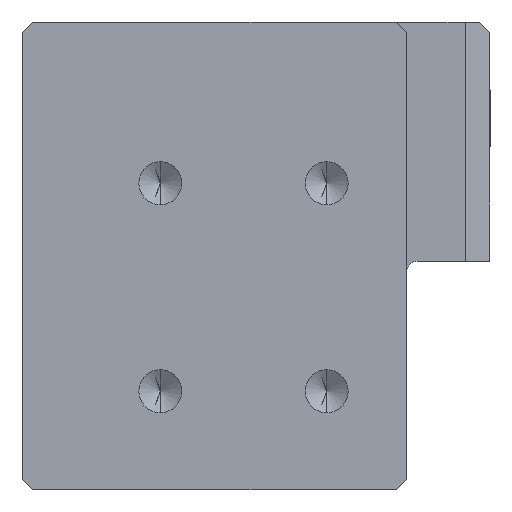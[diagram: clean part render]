
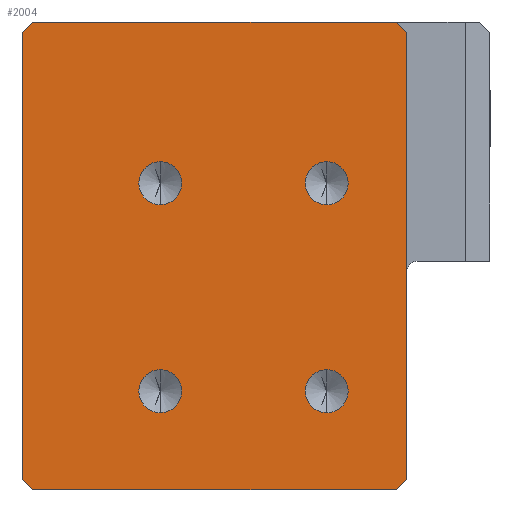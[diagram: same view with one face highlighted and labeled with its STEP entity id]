
A CAD part, front view. The second image highlights one B-rep face of the part: STEP entity #2004.
In plain terms, the highlighted planar face has unit normal (0, -1, 0).
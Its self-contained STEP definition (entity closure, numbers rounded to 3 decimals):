
#4 = LINE ( 'NONE', #946, #2233 ) ;
#7 = EDGE_CURVE ( 'NONE', #1986, #1118, #4, .T. ) ;
#8 = CARTESIAN_POINT ( 'NONE',  ( -9.2, 0., 4.933 ) ) ;
#10 = AXIS2_PLACEMENT_3D ( 'NONE', #2330, #1817, #194 ) ;
#34 = DIRECTION ( 'NONE',  ( -1., 0., 0. ) ) ;
#54 = ORIENTED_EDGE ( 'NONE', *, *, #674, .F. ) ;
#62 = CARTESIAN_POINT ( 'NONE',  ( -22.5, 0., -22.5 ) ) ;
#65 = CARTESIAN_POINT ( 'NONE',  ( 6.8, 0., 7. ) ) ;
#78 = VERTEX_POINT ( 'NONE', #2452 ) ;
#95 = ORIENTED_EDGE ( 'NONE', *, *, #2230, .T. ) ;
#119 = DIRECTION ( 'NONE',  ( 0., 0., 1. ) ) ;
#172 = DIRECTION ( 'NONE',  ( 0., -1., 0. ) ) ;
#185 = CARTESIAN_POINT ( 'NONE',  ( -22.5, 0., -21.5 ) ) ;
#194 = DIRECTION ( 'NONE',  ( 0., 0., -1. ) ) ;
#200 = AXIS2_PLACEMENT_3D ( 'NONE', #65, #1294, #1043 ) ;
#209 = VERTEX_POINT ( 'NONE', #1619 ) ;
#316 = VERTEX_POINT ( 'NONE', #8 ) ;
#319 = DIRECTION ( 'NONE',  ( 0.707, 0., 0.707 ) ) ;
#332 = VERTEX_POINT ( 'NONE', #1908 ) ;
#341 = CARTESIAN_POINT ( 'NONE',  ( -9.2, 0., -15.067 ) ) ;
#377 = EDGE_LOOP ( 'NONE', ( #2084, #54 ) ) ;
#400 = ORIENTED_EDGE ( 'NONE', *, *, #525, .F. ) ;
#415 = VECTOR ( 'NONE', #650, 1000. ) ;
#423 = CARTESIAN_POINT ( 'NONE',  ( 6.8, 0., 7. ) ) ;
#468 = CARTESIAN_POINT ( 'NONE',  ( 14.5, 0., -21.5 ) ) ;
#476 = FACE_BOUND ( 'NONE', #1480, .T. ) ;
#500 = VERTEX_POINT ( 'NONE', #1004 ) ;
#507 = CARTESIAN_POINT ( 'NONE',  ( 13.5, 0., 22.5 ) ) ;
#522 = VERTEX_POINT ( 'NONE', #185 ) ;
#523 = CIRCLE ( 'NONE', #2517, 2.067 ) ;
#525 = EDGE_CURVE ( 'NONE', #1496, #332, #1621, .T. ) ;
#558 = CARTESIAN_POINT ( 'NONE',  ( 0., 0., 0. ) ) ;
#561 = VECTOR ( 'NONE', #319, 1000. ) ;
#601 = AXIS2_PLACEMENT_3D ( 'NONE', #1591, #718, #763 ) ;
#631 = DIRECTION ( 'NONE',  ( 0., -1., 0. ) ) ;
#650 = DIRECTION ( 'NONE',  ( -0.707, 0., -0.707 ) ) ;
#656 = CARTESIAN_POINT ( 'NONE',  ( -22.5, 0., 22.5 ) ) ;
#667 = DIRECTION ( 'NONE',  ( 0., -1., 0. ) ) ;
#674 = EDGE_CURVE ( 'NONE', #500, #1679, #2195, .T. ) ;
#675 = CIRCLE ( 'NONE', #10, 2.067 ) ;
#682 = LINE ( 'NONE', #1094, #1172 ) ;
#685 = CARTESIAN_POINT ( 'NONE',  ( -9.2, 0., 7. ) ) ;
#706 = VERTEX_POINT ( 'NONE', #1891 ) ;
#711 = DIRECTION ( 'NONE',  ( 0.707, 0., -0.707 ) ) ;
#718 = DIRECTION ( 'NONE',  ( 0., -1., 0. ) ) ;
#741 = CIRCLE ( 'NONE', #601, 2.067 ) ;
#747 = VECTOR ( 'NONE', #1731, 1000. ) ;
#754 = ORIENTED_EDGE ( 'NONE', *, *, #1583, .F. ) ;
#763 = DIRECTION ( 'NONE',  ( 0., 0., -1. ) ) ;
#770 = DIRECTION ( 'NONE',  ( 0., 0., -1. ) ) ;
#810 = DIRECTION ( 'NONE',  ( 0., -1., 0. ) ) ;
#869 = LINE ( 'NONE', #62, #1749 ) ;
#891 = AXIS2_PLACEMENT_3D ( 'NONE', #2107, #631, #770 ) ;
#897 = EDGE_CURVE ( 'NONE', #209, #1267, #1219, .T. ) ;
#924 = CARTESIAN_POINT ( 'NONE',  ( 13.5, 0., -22.5 ) ) ;
#946 = CARTESIAN_POINT ( 'NONE',  ( 14.5, 0., 22.5 ) ) ;
#957 = DIRECTION ( 'NONE',  ( -0.707, 0., 0.707 ) ) ;
#967 = CARTESIAN_POINT ( 'NONE',  ( 6.8, 0., -15.067 ) ) ;
#977 = ORIENTED_EDGE ( 'NONE', *, *, #1877, .F. ) ;
#986 = LINE ( 'NONE', #2336, #561 ) ;
#991 = LINE ( 'NONE', #507, #1277 ) ;
#997 = EDGE_CURVE ( 'NONE', #78, #316, #675, .T. ) ;
#1004 = CARTESIAN_POINT ( 'NONE',  ( -9.2, 0., -10.933 ) ) ;
#1043 = DIRECTION ( 'NONE',  ( 0., 0., -1. ) ) ;
#1094 = CARTESIAN_POINT ( 'NONE',  ( -22.5, 0., -22.5 ) ) ;
#1118 = VERTEX_POINT ( 'NONE', #468 ) ;
#1158 = CARTESIAN_POINT ( 'NONE',  ( 6.8, 0., 9.067 ) ) ;
#1172 = VECTOR ( 'NONE', #34, 1000. ) ;
#1219 = CIRCLE ( 'NONE', #200, 2.067 ) ;
#1246 = CARTESIAN_POINT ( 'NONE',  ( -21.5, 0., 22.5 ) ) ;
#1267 = VERTEX_POINT ( 'NONE', #1158 ) ;
#1277 = VECTOR ( 'NONE', #957, 1000. ) ;
#1294 = DIRECTION ( 'NONE',  ( 0., -1., 0. ) ) ;
#1298 = AXIS2_PLACEMENT_3D ( 'NONE', #1511, #667, #2581 ) ;
#1306 = ORIENTED_EDGE ( 'NONE', *, *, #2542, .T. ) ;
#1320 = EDGE_CURVE ( 'NONE', #2334, #2508, #682, .T. ) ;
#1341 = ORIENTED_EDGE ( 'NONE', *, *, #1349, .T. ) ;
#1349 = EDGE_CURVE ( 'NONE', #522, #2508, #1482, .T. ) ;
#1399 = VERTEX_POINT ( 'NONE', #1246 ) ;
#1439 = VERTEX_POINT ( 'NONE', #2302 ) ;
#1451 = DIRECTION ( 'NONE',  ( 0., 0., -1. ) ) ;
#1473 = FACE_BOUND ( 'NONE', #377, .T. ) ;
#1476 = EDGE_LOOP ( 'NONE', ( #977, #95, #1858, #1341, #1695, #1306, #2344, #1562 ) ) ;
#1480 = EDGE_LOOP ( 'NONE', ( #400, #1810 ) ) ;
#1482 = LINE ( 'NONE', #1649, #1670 ) ;
#1496 = VERTEX_POINT ( 'NONE', #967 ) ;
#1511 = CARTESIAN_POINT ( 'NONE',  ( 6.8, 0., -13. ) ) ;
#1562 = ORIENTED_EDGE ( 'NONE', *, *, #2335, .T. ) ;
#1583 = EDGE_CURVE ( 'NONE', #316, #78, #523, .T. ) ;
#1591 = CARTESIAN_POINT ( 'NONE',  ( 6.8, 0., -13. ) ) ;
#1619 = CARTESIAN_POINT ( 'NONE',  ( 6.8, 0., 4.933 ) ) ;
#1621 = CIRCLE ( 'NONE', #1298, 2.067 ) ;
#1649 = CARTESIAN_POINT ( 'NONE',  ( -22.5, 0., -21.5 ) ) ;
#1652 = CARTESIAN_POINT ( 'NONE',  ( -9.2, 0., -13. ) ) ;
#1670 = VECTOR ( 'NONE', #711, 1000. ) ;
#1679 = VERTEX_POINT ( 'NONE', #341 ) ;
#1695 = ORIENTED_EDGE ( 'NONE', *, *, #1320, .F. ) ;
#1714 = EDGE_CURVE ( 'NONE', #1679, #500, #1952, .T. ) ;
#1731 = DIRECTION ( 'NONE',  ( 1., 0., 0. ) ) ;
#1749 = VECTOR ( 'NONE', #2587, 1000. ) ;
#1775 = CARTESIAN_POINT ( 'NONE',  ( -21.5, 0., 22.5 ) ) ;
#1788 = EDGE_CURVE ( 'NONE', #1267, #209, #2433, .T. ) ;
#1809 = DIRECTION ( 'NONE',  ( 0., 1., 0. ) ) ;
#1810 = ORIENTED_EDGE ( 'NONE', *, *, #2289, .F. ) ;
#1816 = ORIENTED_EDGE ( 'NONE', *, *, #997, .F. ) ;
#1817 = DIRECTION ( 'NONE',  ( 0., -1., 0. ) ) ;
#1821 = DIRECTION ( 'NONE',  ( 0., 0., -1. ) ) ;
#1845 = DIRECTION ( 'NONE',  ( 0., -1., 0. ) ) ;
#1858 = ORIENTED_EDGE ( 'NONE', *, *, #2242, .F. ) ;
#1877 = EDGE_CURVE ( 'NONE', #1399, #706, #2437, .T. ) ;
#1891 = CARTESIAN_POINT ( 'NONE',  ( 13.5, 0., 22.5 ) ) ;
#1908 = CARTESIAN_POINT ( 'NONE',  ( 6.8, 0., -10.933 ) ) ;
#1952 = CIRCLE ( 'NONE', #891, 2.067 ) ;
#1979 = FACE_BOUND ( 'NONE', #2641, .T. ) ;
#1986 = VERTEX_POINT ( 'NONE', #2034 ) ;
#1988 = LINE ( 'NONE', #1775, #415 ) ;
#2004 = ADVANCED_FACE ( 'NONE', ( #2110, #476, #1473, #1979, #2541 ), #2652, .F. ) ;
#2034 = CARTESIAN_POINT ( 'NONE',  ( 14.5, 0., 21.5 ) ) ;
#2084 = ORIENTED_EDGE ( 'NONE', *, *, #1714, .F. ) ;
#2092 = EDGE_LOOP ( 'NONE', ( #2502, #2121 ) ) ;
#2107 = CARTESIAN_POINT ( 'NONE',  ( -9.2, 0., -13. ) ) ;
#2110 = FACE_BOUND ( 'NONE', #2092, .T. ) ;
#2121 = ORIENTED_EDGE ( 'NONE', *, *, #1788, .F. ) ;
#2195 = CIRCLE ( 'NONE', #2307, 2.067 ) ;
#2230 = EDGE_CURVE ( 'NONE', #1399, #1439, #1988, .T. ) ;
#2233 = VECTOR ( 'NONE', #1821, 1000. ) ;
#2242 = EDGE_CURVE ( 'NONE', #522, #1439, #869, .T. ) ;
#2289 = EDGE_CURVE ( 'NONE', #332, #1496, #741, .T. ) ;
#2302 = CARTESIAN_POINT ( 'NONE',  ( -22.5, 0., 21.5 ) ) ;
#2307 = AXIS2_PLACEMENT_3D ( 'NONE', #1652, #172, #1451 ) ;
#2330 = CARTESIAN_POINT ( 'NONE',  ( -9.2, 0., 7. ) ) ;
#2334 = VERTEX_POINT ( 'NONE', #924 ) ;
#2335 = EDGE_CURVE ( 'NONE', #1986, #706, #991, .T. ) ;
#2336 = CARTESIAN_POINT ( 'NONE',  ( 14.5, 0., -21.5 ) ) ;
#2344 = ORIENTED_EDGE ( 'NONE', *, *, #7, .F. ) ;
#2355 = DIRECTION ( 'NONE',  ( 0., 0., -1. ) ) ;
#2433 = CIRCLE ( 'NONE', #2463, 2.067 ) ;
#2437 = LINE ( 'NONE', #656, #747 ) ;
#2452 = CARTESIAN_POINT ( 'NONE',  ( -9.2, 0., 9.067 ) ) ;
#2463 = AXIS2_PLACEMENT_3D ( 'NONE', #423, #1845, #2685 ) ;
#2502 = ORIENTED_EDGE ( 'NONE', *, *, #897, .F. ) ;
#2508 = VERTEX_POINT ( 'NONE', #2619 ) ;
#2517 = AXIS2_PLACEMENT_3D ( 'NONE', #685, #810, #2355 ) ;
#2541 = FACE_OUTER_BOUND ( 'NONE', #1476, .T. ) ;
#2542 = EDGE_CURVE ( 'NONE', #2334, #1118, #986, .T. ) ;
#2581 = DIRECTION ( 'NONE',  ( 0., 0., -1. ) ) ;
#2587 = DIRECTION ( 'NONE',  ( 0., 0., 1. ) ) ;
#2619 = CARTESIAN_POINT ( 'NONE',  ( -21.5, 0., -22.5 ) ) ;
#2641 = EDGE_LOOP ( 'NONE', ( #754, #1816 ) ) ;
#2652 = PLANE ( 'NONE',  #2691 ) ;
#2685 = DIRECTION ( 'NONE',  ( 0., 0., -1. ) ) ;
#2691 = AXIS2_PLACEMENT_3D ( 'NONE', #558, #1809, #119 ) ;
